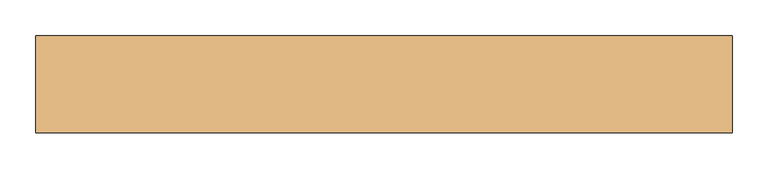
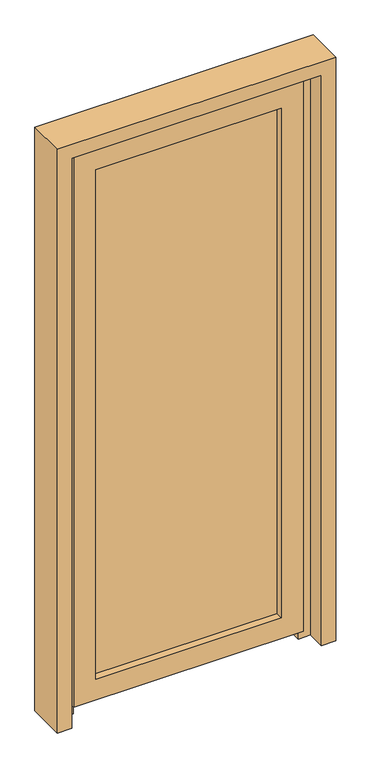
"""IFC4 building model written with IfcOpenShell, lengths in millimetres: door geometry, Внутренняя дверь 1-Навесная - 30970-2002 : ДПВ Г Б Л 2100-870 ГОСТ 30970-2002."""

from ifc_helpers import new_model, si_unit, frame, origin, place, context, project, spatial, polyline, outline, extrude, faceted_brep, source, transform, mapped, element, save


def door_bac351b1(model_context):
    return source(origin(), model_context, "Body", "SolidModel", [
        extrude(outline(polyline([(-338.0, 40.5), (338.0, 40.5), (338.0, 16.5), (-338.0, 16.5), (-338.0, 40.5)])), frame((0.0, 0.0, 97.0), z_axis=(0.0, 0.0, 1.0), x_axis=(1.0, 0.0, 0.0)), (0.0, 0.0, 1.0), 1906.0),
        faceted_brep([(-323.0, 16.5, 1988.0), (-323.0, -9.5, 1988.0), (-323.0, -9.5, 112.0), (-323.0, 16.5, 112.0), (-338.0, 40.5, 2003.0), (-338.0, 16.5, 2003.0), (-338.0, 16.5, 97.0), (-338.0, 40.5, 97.0), (-323.0, 60.5, 1988.0), (-323.0, 40.5, 1988.0), (-323.0, 40.5, 112.0), (-323.0, 60.5, 112.0), (-380.0, 4.5, 2045.0), (-380.0, 60.5, 2045.0), (-380.0, 60.5, 55.0), (-380.0, 4.5, 55.0), (-400.0, -9.5, 2065.0), (-400.0, 4.5, 2065.0), (-400.0, 4.5, 35.0), (-400.0, -9.5, 35.0), (323.0, -9.5, 112.0), (323.0, 16.5, 112.0), (338.0, 16.5, 97.0), (338.0, 40.5, 97.0), (323.0, 40.5, 112.0), (323.0, 60.5, 112.0), (380.0, 60.5, 55.0), (380.0, 4.5, 55.0), (400.0, 4.5, 35.0), (400.0, -9.5, 35.0), (323.0, -9.5, 1988.0), (323.0, 16.5, 1988.0), (338.0, 16.5, 2003.0), (338.0, 40.5, 2003.0), (323.0, 40.5, 1988.0), (323.0, 60.5, 1988.0), (380.0, 60.5, 2045.0), (380.0, 4.5, 2045.0), (400.0, 4.5, 2065.0), (400.0, -9.5, 2065.0)], [[[0, 1, 2, 3]], [[4, 5, 6, 7]], [[8, 9, 10, 11]], [[12, 13, 14, 15]], [[16, 17, 18, 19]], [[3, 2, 20, 21]], [[7, 6, 22, 23]], [[11, 10, 24, 25]], [[15, 14, 26, 27]], [[19, 18, 28, 29]], [[21, 20, 30, 31]], [[23, 22, 32, 33]], [[25, 24, 34, 35]], [[27, 26, 36, 37]], [[29, 28, 38, 39]], [[31, 30, 1, 0]], [[5, 32, 22, 6], [3, 21, 31, 0]], [[33, 32, 5, 4]], [[7, 23, 33, 4], [9, 34, 24, 10]], [[35, 34, 9, 8]], [[13, 36, 26, 14], [11, 25, 35, 8]], [[37, 36, 13, 12]], [[17, 38, 28, 18], [15, 27, 37, 12]], [[39, 38, 17, 16]], [[19, 29, 39, 16], [1, 30, 20, 2]]]),
        faceted_brep([(372.0, 76.5, 0.0), (435.0, 76.5, 0.0), (435.0, 6.5, 0.0), (392.0, 6.5, 0.0), (392.0, 62.5, 0.0), (372.0, 62.5, 0.0), (372.0, 76.5, 2037.0), (-372.0, 76.5, 2037.0), (-372.0, 76.5, 0.0), (-435.0, 76.5, 0.0), (-435.0, 76.5, 2100.0), (435.0, 76.5, 2100.0), (435.0, 6.5, 2100.0), (-435.0, 6.5, 2100.0), (-435.0, 6.5, 0.0), (-392.0, 6.5, 0.0), (-392.0, 6.5, 2057.0), (392.0, 6.5, 2057.0), (392.0, 62.5, 2057.0), (-392.0, 62.5, 2057.0), (-392.0, 62.5, 0.0), (-372.0, 62.5, 0.0), (-372.0, 62.5, 2037.0), (372.0, 62.5, 2037.0)], [[[0, 1, 2, 3, 4, 5]], [[1, 0, 6, 7, 8, 9, 10, 11]], [[2, 1, 11, 12]], [[3, 2, 12, 13, 14, 15, 16, 17]], [[4, 3, 17, 18]], [[5, 4, 18, 19, 20, 21, 22, 23]], [[0, 5, 23, 6]], [[7, 22, 21, 8]], [[8, 21, 20, 15, 14, 9]], [[13, 10, 9, 14]], [[19, 16, 15, 20]], [[12, 11, 10, 13]], [[18, 17, 16, 19]], [[6, 23, 22, 7]]]),
        extrude(outline(polyline([(0.0, 435.0), (0.0, 485.0), (2150.0, 485.0), (2150.0, -485.0), (0.0, -485.0), (0.0, -435.0), (2100.0, -435.0), (2100.0, 435.0), (0.0, 435.0)])), frame((0.0, -58.5, 0.0), z_axis=(0.0, 1.0, 0.0), x_axis=(0.0, 0.0, 1.0)), (0.0, 0.0, 1.0), 135.0),
    ])


if __name__ == "__main__":
    model = new_model("IFC4")
    model_context = context("Model", 3, world=origin())
    ifc_project = project(units=[si_unit("LENGTHUNIT", "METRE", prefix="MILLI")], contexts=[model_context])
    site = spatial("IfcSite", under=ifc_project)
    building = spatial("IfcBuilding", under=site)
    placement = place(None, origin())
    door_shape = door_bac351b1(model_context)
    element("IfcDoor", 1, ObjectType="Внутренняя дверь 1-Навесная - 30970-2002 : ДПВ Г Б Л 2100-870 ГОСТ 30970-2002", at=placement, inside=building, context=model_context, shape_type="MappedRepresentation", body=[
        mapped(door_shape, transform((0.0, 0.0, 0.0), x_axis=(1.0, 0.0, 0.0), y_axis=(0.0, 1.0, 0.0), z_axis=(0.0, 0.0, 1.0))),
    ])
    save(model, "model.ifc")
